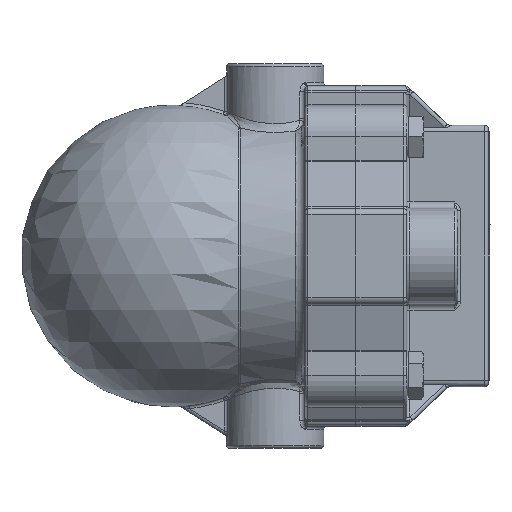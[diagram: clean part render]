
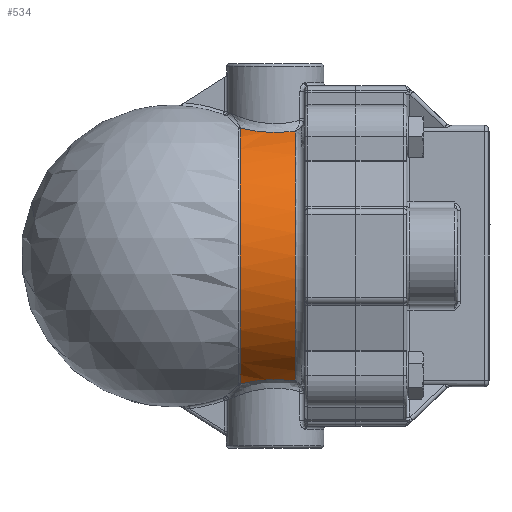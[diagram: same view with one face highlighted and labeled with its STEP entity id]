
A CAD part, left-side view. The second image highlights one B-rep face of the part: STEP entity #534.
In plain terms, the highlighted cylindrical face has radius 42.5 mm (diameter 85 mm), a partial arc.
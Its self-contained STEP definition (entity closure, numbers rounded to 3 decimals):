
#534=ADVANCED_FACE('',(#12089),#12091,.T.);
#12089=FACE_BOUND('',#12090,.T.);
#12090=EDGE_LOOP('',(#36793,#36794,#36795,#36796));
#12091=CYLINDRICAL_SURFACE('',#12092,42.5);
#12092=AXIS2_PLACEMENT_3D('',#12093,#12094,#12095);
#12093=CARTESIAN_POINT('',(0.,-9.316,0.));
#12094=DIRECTION('',(0.,1.,0.));
#12095=DIRECTION('',(-1.,0.,0.));
#36793=ORIENTED_EDGE('',*,*,#43441,.F.);
#36794=ORIENTED_EDGE('',*,*,#43344,.F.);
#36795=ORIENTED_EDGE('',*,*,#43440,.F.);
#36796=ORIENTED_EDGE('',*,*,#43442,.F.);
#43344=EDGE_CURVE('',#46737,#46739,#46740,.T.);
#43440=EDGE_CURVE('',#46906,#46737,#46908,.T.);
#43441=EDGE_CURVE('',#46739,#46909,#46910,.T.);
#43442=EDGE_CURVE('',#46909,#46906,#46911,.T.);
#46737=VERTEX_POINT('',#53130);
#46739=VERTEX_POINT('',#53185);
#46740=B_SPLINE_CURVE_WITH_KNOTS('',3,
(#53186,#53187,#53188,#53189,#53190,#53191,#53192,#53193,#53194,#53195,#53196,#53197,
#53198,#53199,#53200,#53201,#53202,#53203,#53204,#53205,#53206,#53207,#53208,#53209,
#53210,#53211,#53212,#53213,#53214,#53215,#53216,#53217,#53218,#53219,#53220,#53221),
.UNSPECIFIED.,.F.,.F.,
(4,1,1,1,1,1,1,1,1,1,1,1,1,1,1,1,1,1,1,1,1,1,1,1,1,1,1,1,1,1,1,1,1,4),
(0.,0.029,0.057,0.086,0.114,0.143,
0.171,0.2,0.228,0.257,0.285,
0.314,0.343,0.371,0.4,0.429,
0.457,0.486,0.515,0.543,0.571,
0.599,0.626,0.652,0.678,0.704,
0.728,0.752,0.775,0.797,0.829,
0.874,0.934,1.),
.UNSPECIFIED.);
#46906=VERTEX_POINT('',#54259);
#46908=CIRCLE('',#54315,42.5);
#46909=VERTEX_POINT('',#54319);
#46910=CIRCLE('',#54320,42.5);
#46911=B_SPLINE_CURVE_WITH_KNOTS('',3,
(#54324,#54325,#54326,#54327,#54328,#54329,#54330,#54331,#54332,#54333,#54334,#54335,
#54336,#54337,#54338,#54339,#54340,#54341,#54342,#54343,#54344,#54345,#54346,#54347,
#54348,#54349,#54350,#54351,#54352,#54353,#54354,#54355,#54356,#54357,#54358,#54359,
#54360,#54361,#54362,#54363,#54364),
.UNSPECIFIED.,.F.,.F.,
(4,1,1,1,1,1,1,1,1,1,1,1,1,1,1,1,1,1,1,1,1,1,1,1,1,1,1,1,1,1,1,1,1,1,1,1,1,1,4),
(0.,0.031,0.062,0.093,0.124,0.154,
0.185,0.215,0.246,0.276,0.306,
0.336,0.366,0.396,0.435,0.474,
0.513,0.541,0.57,0.597,0.625,
0.651,0.677,0.702,0.726,0.75,
0.773,0.794,0.815,0.835,0.854,
0.878,0.901,0.923,0.939,0.955,
0.97,0.985,1.),
.UNSPECIFIED.);
#53130=CARTESIAN_POINT('',(-16.059,-6.315,-39.349));
#53185=CARTESIAN_POINT('',(-13.639,11.057,-40.252));
#53186=CARTESIAN_POINT('',(-16.058,-6.316,-39.348));
#53187=CARTESIAN_POINT('',(-16.114,-6.152,-39.325));
#53188=CARTESIAN_POINT('',(-16.223,-5.824,-39.28));
#53189=CARTESIAN_POINT('',(-16.372,-5.326,-39.218));
#53190=CARTESIAN_POINT('',(-16.507,-4.824,-39.162));
#53191=CARTESIAN_POINT('',(-16.628,-4.316,-39.11));
#53192=CARTESIAN_POINT('',(-16.735,-3.804,-39.065));
#53193=CARTESIAN_POINT('',(-16.829,-3.289,-39.026));
#53194=CARTESIAN_POINT('',(-16.908,-2.771,-38.992));
#53195=CARTESIAN_POINT('',(-16.974,-2.25,-38.964));
#53196=CARTESIAN_POINT('',(-17.026,-1.727,-38.942));
#53197=CARTESIAN_POINT('',(-17.064,-1.202,-38.925));
#53198=CARTESIAN_POINT('',(-17.088,-0.676,-38.915));
#53199=CARTESIAN_POINT('',(-17.099,-0.148,-38.91));
#53200=CARTESIAN_POINT('',(-17.096,0.38,-38.912));
#53201=CARTESIAN_POINT('',(-17.078,0.909,-38.919));
#53202=CARTESIAN_POINT('',(-17.047,1.437,-38.932));
#53203=CARTESIAN_POINT('',(-17.002,1.965,-38.952));
#53204=CARTESIAN_POINT('',(-16.943,2.491,-38.977));
#53205=CARTESIAN_POINT('',(-16.871,3.011,-39.008));
#53206=CARTESIAN_POINT('',(-16.785,3.523,-39.044));
#53207=CARTESIAN_POINT('',(-16.687,4.027,-39.086));
#53208=CARTESIAN_POINT('',(-16.578,4.518,-39.132));
#53209=CARTESIAN_POINT('',(-16.458,4.997,-39.183));
#53210=CARTESIAN_POINT('',(-16.329,5.46,-39.236));
#53211=CARTESIAN_POINT('',(-16.191,5.911,-39.293));
#53212=CARTESIAN_POINT('',(-16.047,6.346,-39.353));
#53213=CARTESIAN_POINT('',(-15.896,6.765,-39.414));
#53214=CARTESIAN_POINT('',(-15.742,7.165,-39.476));
#53215=CARTESIAN_POINT('',(-15.585,7.547,-39.539));
#53216=CARTESIAN_POINT('',(-15.401,7.969,-39.611));
#53217=CARTESIAN_POINT('',(-15.152,8.505,-39.707));
#53218=CARTESIAN_POINT('',(-14.78,9.232,-39.848));
#53219=CARTESIAN_POINT('',(-14.273,10.114,-40.033));
#53220=CARTESIAN_POINT('',(-13.863,10.738,-40.177));
#53221=CARTESIAN_POINT('',(-13.639,11.057,-40.252));
#54259=CARTESIAN_POINT('',(-16.059,-6.316,39.349));
#54315=AXIS2_PLACEMENT_3D('',#54316,#54317,#54318);
#54316=CARTESIAN_POINT('',(0.,-6.316,0.));
#54317=DIRECTION('',(0.,-1.,0.));
#54318=DIRECTION('',(-0.378,0.,0.926));
#54319=CARTESIAN_POINT('',(-13.639,11.057,40.252));
#54320=AXIS2_PLACEMENT_3D('',#54321,#54322,#54323);
#54321=CARTESIAN_POINT('',(0.,11.057,0.));
#54322=DIRECTION('',(0.,1.,0.));
#54323=DIRECTION('',(-0.321,0.,-0.947));
#54324=CARTESIAN_POINT('',(-13.639,11.057,40.252));
#54325=CARTESIAN_POINT('',(-13.744,10.908,40.216));
#54326=CARTESIAN_POINT('',(-13.951,10.608,40.145));
#54327=CARTESIAN_POINT('',(-14.248,10.147,40.04));
#54328=CARTESIAN_POINT('',(-14.531,9.677,39.938));
#54329=CARTESIAN_POINT('',(-14.799,9.199,39.839));
#54330=CARTESIAN_POINT('',(-15.053,8.712,39.744));
#54331=CARTESIAN_POINT('',(-15.293,8.218,39.653));
#54332=CARTESIAN_POINT('',(-15.517,7.718,39.566));
#54333=CARTESIAN_POINT('',(-15.727,7.212,39.483));
#54334=CARTESIAN_POINT('',(-15.922,6.7,39.405));
#54335=CARTESIAN_POINT('',(-16.102,6.183,39.332));
#54336=CARTESIAN_POINT('',(-16.267,5.664,39.265));
#54337=CARTESIAN_POINT('',(-16.417,5.141,39.202));
#54338=CARTESIAN_POINT('',(-16.567,4.56,39.139));
#54339=CARTESIAN_POINT('',(-16.711,3.918,39.078));
#54340=CARTESIAN_POINT('',(-16.843,3.214,39.022));
#54341=CARTESIAN_POINT('',(-16.939,2.569,38.979));
#54342=CARTESIAN_POINT('',(-17.008,1.986,38.949));
#54343=CARTESIAN_POINT('',(-17.054,1.469,38.928));
#54344=CARTESIAN_POINT('',(-17.087,0.959,38.914));
#54345=CARTESIAN_POINT('',(-17.106,0.461,38.905));
#54346=CARTESIAN_POINT('',(-17.112,-0.027,38.902));
#54347=CARTESIAN_POINT('',(-17.106,-0.501,38.905));
#54348=CARTESIAN_POINT('',(-17.088,-0.963,38.912));
#54349=CARTESIAN_POINT('',(-17.061,-1.411,38.925));
#54350=CARTESIAN_POINT('',(-17.024,-1.845,38.941));
#54351=CARTESIAN_POINT('',(-16.98,-2.259,38.96));
#54352=CARTESIAN_POINT('',(-16.929,-2.655,38.982));
#54353=CARTESIAN_POINT('',(-16.873,-3.032,39.007));
#54354=CARTESIAN_POINT('',(-16.813,-3.392,39.033));
#54355=CARTESIAN_POINT('',(-16.743,-3.768,39.063));
#54356=CARTESIAN_POINT('',(-16.661,-4.163,39.098));
#54357=CARTESIAN_POINT('',(-16.566,-4.576,39.139));
#54358=CARTESIAN_POINT('',(-16.474,-4.94,39.178));
#54359=CARTESIAN_POINT('',(-16.388,-5.258,39.214));
#54360=CARTESIAN_POINT('',(-16.309,-5.532,39.247));
#54361=CARTESIAN_POINT('',(-16.228,-5.799,39.28));
#54362=CARTESIAN_POINT('',(-16.145,-6.059,39.314));
#54363=CARTESIAN_POINT('',(-16.088,-6.231,39.338));
#54364=CARTESIAN_POINT('',(-16.059,-6.316,39.35));
